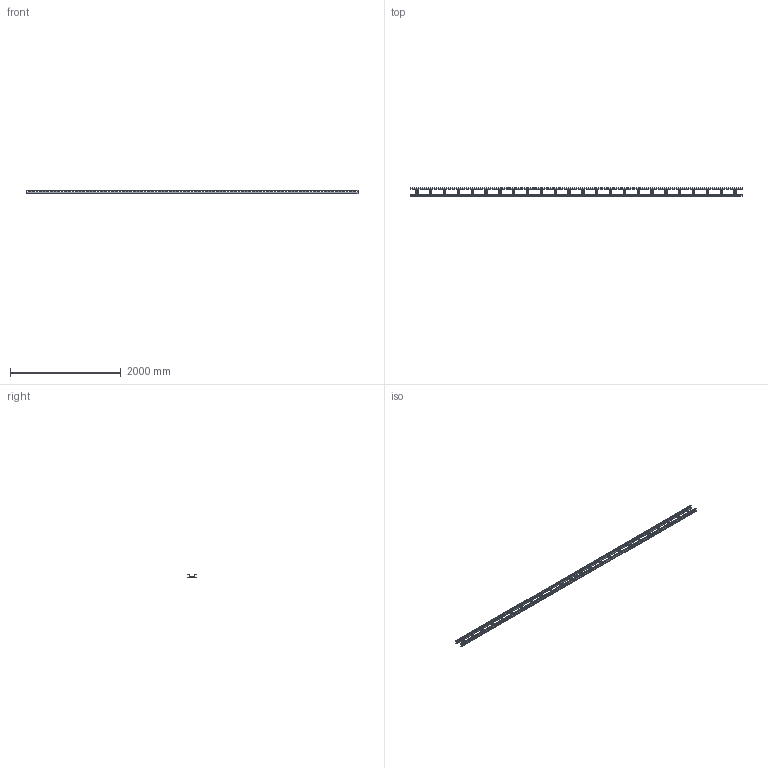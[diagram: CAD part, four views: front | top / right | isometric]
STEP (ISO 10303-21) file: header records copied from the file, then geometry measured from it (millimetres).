
FILE_DESCRIPTION(/* description */ ('','CAx-IF Rec.Pracs.---Representation and Presentation of Product Manufacturing Information (PMI)---4.0---2014-10-13'),/* implementation_level */ '2;1');
FILE_NAME(/* name */ 'Eurostrut_ECL60-100_CableLadder-3DView-{3D}.step',/* time_stamp */ '2026-09-03T08:21:39+02:00',/* author */ (''),/* organization */ (''),/* preprocessor_version */ 'ST-DEVELOPER v20.1',/* originating_system */ 'Autodesk Revit 2027 27.2.0.39',/* authorisation */ '');
FILE_SCHEMA (('AP242_MANAGED_MODEL_BASED_3D_ENGINEERING_MIM_LF { 1 0 10303 442 2 1 4 }'));
Length unit declared in the file: millimetre
Products named in the file (4): TopLevelAssembly; 60mm; 60mm_1; Cable Ladder Rung_Slotted
Assembly tree (26 placements, depth 2):
  TopLevelAssembly
    60mm
    60mm_1
    Cable Ladder Rung_Slotted  x24
Bounding box: 6000 x 146 x 60 mm (x, y, z)
Volume: 2531902.9 mm3; surface area: 3430950.6 mm2
Topology: 26 solids, 26 shells, 1932 faces, 5640 edges, 3760 vertices
Faces by surface type: plane 1572, bspline 240, cylinder 120
Entity records: 36380 total; most frequent: CARTESIAN_POINT 6650, ORIENTED_EDGE 6312, DIRECTION 5388, EDGE_CURVE 3156, LINE 3080, VECTOR 3080, VERTEX_POINT 2104, EDGE_LOOP 1548
